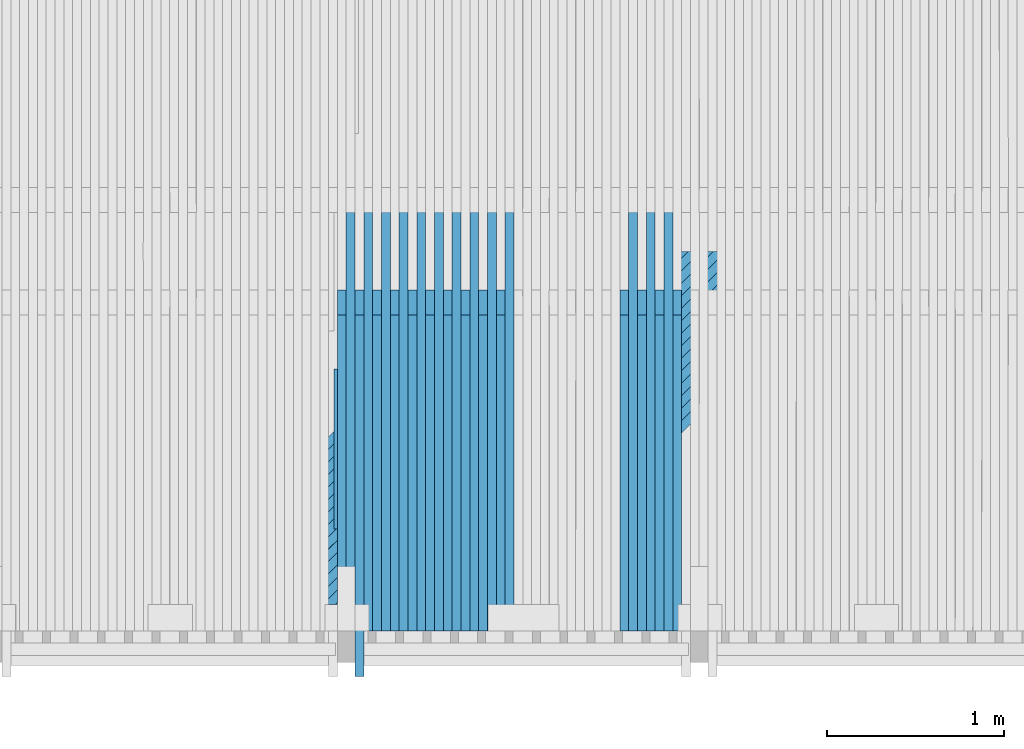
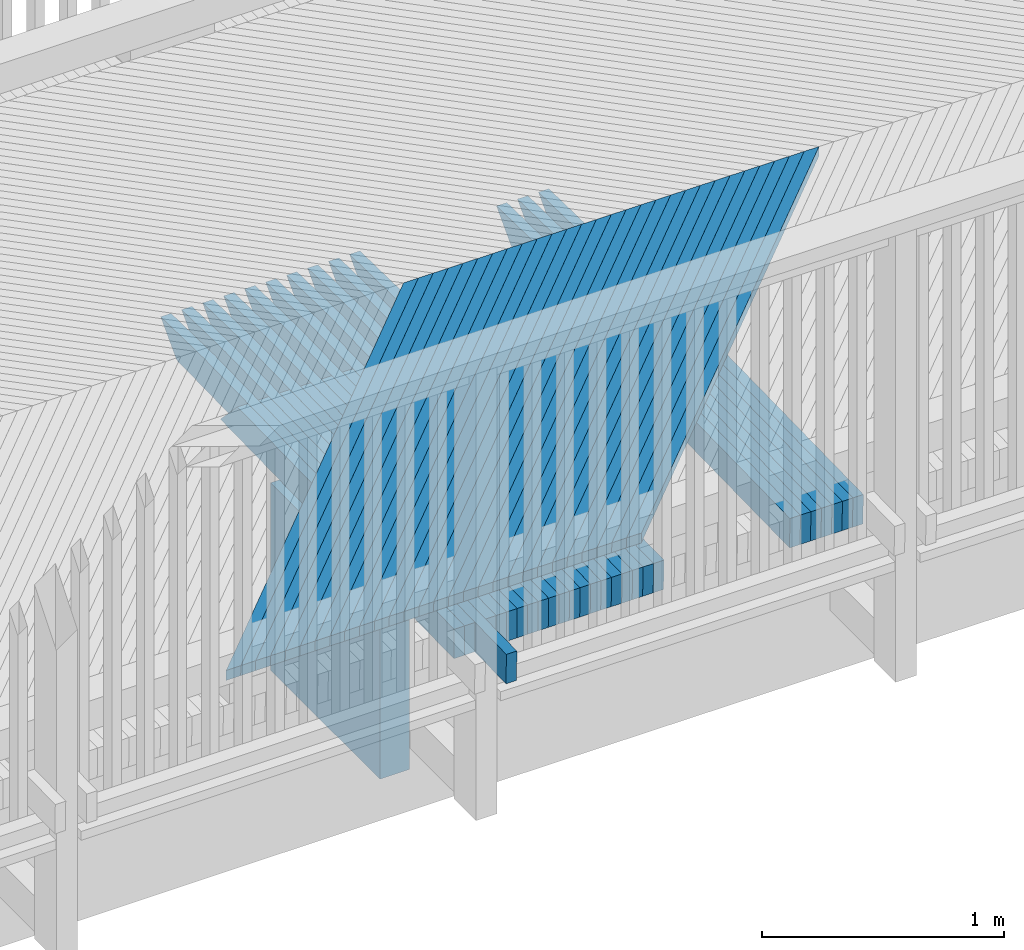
# One storey, part 29 of 52: 56 beams.
"""IFC2X3 building model written with IfcOpenShell, lengths in millimetres."""

from ifc_helpers import new_model, si_unit, frame, origin_with_axes, place, context, subcontext, project, spatial, faceted_brep, material, type_object, element, save


model = new_model("IFC2X3")

# Units and contexts
model_context = context("Model", 3, precision=1e-05, world=origin_with_axes())
body_context = subcontext(model_context, "Body", "Model", "MODEL_VIEW")
ifc_project = project(units=[si_unit("LENGTHUNIT", "METRE", prefix="MILLI"), si_unit("AREAUNIT", "SQUARE_METRE"), si_unit("VOLUMEUNIT", "CUBIC_METRE"), si_unit("MASSUNIT", "GRAM", prefix="KILO"), si_unit("TIMEUNIT", "SECOND"), si_unit("PLANEANGLEUNIT", "RADIAN"), si_unit("SOLIDANGLEUNIT", "STERADIAN"), si_unit("THERMODYNAMICTEMPERATUREUNIT", "DEGREE_CELSIUS"), si_unit("LUMINOUSINTENSITYUNIT", "LUMEN")], contexts=[model_context])

# Site, building, storey
site_placement = place(None, origin_with_axes())
site = spatial("IfcSite", under=ifc_project, at=site_placement, Name="Undefined", CompositionType="ELEMENT")
building_placement = place(site_placement, origin_with_axes())
building = spatial("IfcBuilding", under=site, at=building_placement, Name="Undefined", CompositionType="ELEMENT")
storey_placement = place(building_placement, origin_with_axes())
storey = spatial("IfcBuildingStorey", under=building, at=storey_placement, Name="Undefined", CompositionType="ELEMENT", Elevation=0.0)

# Beams
ifc_material = material(Name="TIMBER/Timber_Undefined")
beam_type_1 = type_object("IfcBeamType", Name="945*140", PredefinedType="NOTDEFINED")
beam_1_placement = place(storey_placement, frame((8000.0, 1697.5, 2542.6979002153), z_axis=(0.0, 0.0, 1.0), x_axis=(0.0, -1.0, 0.0)))
element("IfcBeam", 1, at=beam_1_placement, inside=storey, type_object=beam_type_1, material=ifc_material, Name="PALKKI", ObjectType="945*140", context=body_context, shape_type="Brep", body=[
    faceted_brep([(0.0, 70.0, -472.5), (0.0, 70.0, 472.5), (905.0, 70.0, 472.5), (905.0, 70.0, -472.5), (0.0, -70.0, 472.5), (905.0, -70.0, 472.5), (0.0, -70.0, -472.5), (905.0, -70.0, -472.5)], [[[0, 1, 2, 3]], [[1, 4, 5, 2]], [[4, 6, 7, 5]], [[6, 0, 3, 7]], [[5, 7, 3, 2]], [[6, 4, 1, 0]]]),
])
beam_type_2 = type_object("IfcBeamType", Name="50*50", PredefinedType="NOTDEFINED")
for number, where, z_axis, x_axis, name in (
    (2, (10894.0405199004, 2364.50010032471, 3229.16691949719), (0.707044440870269, -0.70698194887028, -0.0162690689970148), (-0.707162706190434, -0.706948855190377, -0.0120092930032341), "BEAM"),
    (3, (10823.3170835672, 2364.50010032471, 3229.50270179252), (0.70704634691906, -0.706981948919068, -0.0161860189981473), (-0.707161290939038, -0.706948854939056, -0.0120923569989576), "BEAM"),
    (4, (10752.5936082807, 2364.50010032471, 3229.83017686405), (0.70704824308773, -0.706981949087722, -0.0161029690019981), (-0.707159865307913, -0.706948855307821, -0.0121754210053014), "BEAM"),
    (5, (10681.8700950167, 2364.50010032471, 3230.14934470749), (0.707050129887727, -0.706981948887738, -0.0160199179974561), (-0.707158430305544, -0.706948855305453, -0.0122584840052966), "BEAM"),
    (6, (10611.1465447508, 2364.50010032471, 3230.46020531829), (0.707052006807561, -0.70698194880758, -0.0159368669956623), (-0.707156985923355, -0.706948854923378, -0.0123415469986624), "BEAM"),
    (7, (10540.422958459, 2364.50010032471, 3230.76275869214), (0.707053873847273, -0.706981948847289, -0.0158538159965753), (-0.707155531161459, -0.706948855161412, -0.0124246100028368), "BEAM"),
    (8, (10469.6993371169, 2364.50010032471, 3231.05700482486), (0.707055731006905, -0.706981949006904, -0.0157707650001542), (-0.707154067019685, -0.706948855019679, -0.0125076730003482), "BEAM"),
    (9, (10398.9756817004, 2364.50010032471, 3231.34294371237), (0.707057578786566, -0.706981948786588, -0.0156877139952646), (-0.707152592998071, -0.706948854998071, -0.0125907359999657), "BEAM"),
    (10, (10328.2519931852, 2364.50010032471, 3231.62057535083), (0.707059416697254, -0.706981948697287, -0.0156046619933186), (-0.707151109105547, -0.706948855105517, -0.0126737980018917), "BEAM"),
    (11, (10257.5282725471, 2364.50010032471, 3231.88989973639), (0.707061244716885, -0.706981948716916, -0.0155216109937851), (-0.707149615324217, -0.706948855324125, -0.0127568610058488), "BEAM"),
    (12, (10186.8045207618, 2364.50010032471, 3232.15091686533), (0.707063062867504, -0.70698194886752, -0.0154385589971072), (-0.707148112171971, -0.706948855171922, -0.0128399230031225), "BEAM"),
    (13, (10116.0807388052, 2364.50010032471, 3232.40362673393), (0.707064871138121, -0.706981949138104, -0.0153555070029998), (-0.707146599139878, -0.706948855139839, -0.0129229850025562), "BEAM"),
    (14, (10045.356927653, 2364.50010032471, 3232.64802933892), (0.707066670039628, -0.706981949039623, -0.0152724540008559), (-0.707145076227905, -0.706948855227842, -0.0130060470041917), "BEAM"),
    (15, (9974.63308828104, 2364.50010032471, 3232.8841246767), (0.707068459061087, -0.706981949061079, -0.0151894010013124), (-0.707143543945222, -0.706948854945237, -0.0130891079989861), "BEAM"),
    (16, (9903.90922166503, 2364.50010032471, 3233.11191274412), (0.707070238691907, -0.706981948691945, -0.0151063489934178), (-0.707142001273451, -0.706948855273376, -0.0131721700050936), "BEAM"),
    (17, (9833.18532878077, 2364.50010032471, 3233.33139353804), (0.707072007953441, -0.706981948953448, -0.0150232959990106), (-0.707140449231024, -0.706948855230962, -0.0132552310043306), "BEAM"),
    (18, (9762.46141060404, 2364.50010032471, 3233.54256705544), (0.707073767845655, -0.706981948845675, -0.0149402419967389), (-0.707138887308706, -0.706948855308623, -0.0133382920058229), "BEAM"),
    (19, (9691.73746811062, 2364.50010032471, 3233.7454332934), (0.707075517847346, -0.706981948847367, -0.0148571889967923), (-0.707137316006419, -0.706948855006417, -0.0134213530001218), "BEAM"),
    (20, (9621.01350227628, 2364.50010032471, 3233.93999224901), (0.707077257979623, -0.706981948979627, -0.0147741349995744), (-0.707135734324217, -0.706948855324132, -0.0135044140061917), "BEAM"),
    (21, (9550.28951407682, 2364.50010032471, 3234.12624391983), (0.707078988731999, -0.706981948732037, -0.0146910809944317), (-0.70713414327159, -0.706948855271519, -0.0135874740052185), "BEAM"),
    (22, (9479.565504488, 2364.50010032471, 3234.30418830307), (0.707080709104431, -0.706981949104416, -0.0146080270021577), (-0.70713254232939, -0.706948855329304, -0.0136705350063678), "BEAM"),
    (23, (9408.8414744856, 2364.50010032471, 3234.4738253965), (0.707082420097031, -0.706981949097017, -0.0145249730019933), (-0.707130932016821, -0.706948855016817, -0.0137535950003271), "BEAM"),
    (24, (9338.11742504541, 2364.50010032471, 3234.63515519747), (0.70708412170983, -0.706981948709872, -0.0144419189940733), (-0.707129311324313, -0.70694885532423, -0.0138366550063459), "BEAM"),
    (25, (9267.39335714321, 2364.50010032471, 3234.78817770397), (0.70708581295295, -0.706981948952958, -0.0143588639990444), (-0.707127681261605, -0.706948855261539, -0.0139197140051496), "BEAM"),
    (26, (9196.66927175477, 2364.50010032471, 3234.93289291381), (0.707087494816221, -0.706981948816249, -0.0142758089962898), (-0.707126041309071, -0.706948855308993, -0.0140027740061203), "BEAM"),
    (27, (9125.94516985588, 2364.50010032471, 3235.06930082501), (0.707089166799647, -0.706981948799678, -0.0141927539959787), (-0.707124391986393, -0.706948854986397, -0.0140858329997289), "BEAM"),
    (28, (9055.22105242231, 2364.50010032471, 3235.1974014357), (0.707090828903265, -0.706981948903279, -0.0141096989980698), (-0.707122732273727, -0.70694885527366, -0.0141688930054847), "BEAM"),
    (29, (8984.49692042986, 2364.50010032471, 3235.31719474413), (0.707092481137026, -0.706981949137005, -0.0140266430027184), (-0.707121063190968, -0.706948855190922, -0.014251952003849), "BEAM"),
):
    element("IfcBeam", number, at=place(storey_placement, frame(where, z_axis=z_axis, x_axis=x_axis)), inside=storey, type_object=beam_type_2, material=ifc_material, Name=name, ObjectType="50*50", context=body_context, shape_type="Brep", body=[
        faceted_brep([(24.894245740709, 25.0, -25.0), (-25.0086637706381, 24.9999999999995, 24.9999999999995), (2804.3406783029, 25.0000000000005, 25.0000000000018), (2854.34301907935, 25.0, -24.9999999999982), (-26.4222658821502, -25.0, 24.9999999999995), (2802.92643296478, -25.0, 25.0000000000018), (23.4806436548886, -25.0, -25.0), (2852.92877373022, -25.0, -24.9999999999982)], [[[0, 1, 2, 3]], [[1, 4, 5, 2]], [[4, 6, 7, 5]], [[6, 0, 3, 7]], [[5, 7, 3, 2]], [[6, 4, 1, 0]]]),
    ])
beam_type_3 = type_object("IfcBeamType", Name="150*50", PredefinedType="NOTDEFINED")
for number, where, z_axis, x_axis, name in (
    (30, (9875.54866800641, 216.50460761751, 3090.22816959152), (0.00303469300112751, -0.0199960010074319, 0.999795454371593), (6.06930000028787e-05, 0.999800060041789, 0.0199959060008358), "BEAM"),
    (31, (9775.52909420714, 216.50460761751, 3090.53149263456), (0.00286857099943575, -0.0199960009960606, 0.999795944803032), (5.73710000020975e-05, 0.999800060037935, 0.0199959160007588), "BEAM"),
):
    element("IfcBeam", number, at=place(storey_placement, frame(where, z_axis=z_axis, x_axis=x_axis)), inside=storey, type_object=beam_type_3, material=ifc_material, Name=name, ObjectType="150*50", context=body_context, shape_type="Brep", body=[
        faceted_brep([(-1.67788130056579e-07, -24.9999999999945, -74.9999999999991), (1.67786311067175e-07, -24.9999999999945, 75.0000000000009), (1.67786311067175e-07, 25.0000000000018, 75.0), (-1.67787220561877e-07, 25.0000000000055, -75.0), (1789.96936433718, -25.0000000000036, 74.9999999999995), (1789.96936408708, 24.9999999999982, 75.0000000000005), (1928.42646328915, 24.9999999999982, -74.9999999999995), (1928.42646353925, -25.0, -75.0)], [[[0, 1, 2, 3]], [[2, 1, 4, 5]], [[3, 2, 5, 6]], [[0, 3, 6, 7]], [[1, 0, 7, 4]], [[6, 5, 4, 7]]]),
    ])
beam_2_placement = place(storey_placement, frame((9825.54889674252, 216.504607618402, 3090.37966862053), z_axis=(0.00303469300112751, -0.0199960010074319, 0.999795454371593), x_axis=(6.06930000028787e-05, 0.999800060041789, 0.0199959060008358)))
element("IfcBeam", 32, at=beam_2_placement, inside=storey, type_object=beam_type_3, material=ifc_material, Name="BEAM", ObjectType="150*50", context=body_context, shape_type="Brep", body=[
    faceted_brep([(-1.67788130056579e-07, -24.9999999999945, -74.9999999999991), (1.67786311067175e-07, -24.9999999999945, 75.0000000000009), (1.67786311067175e-07, 25.0000000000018, 75.0), (-1.67787220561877e-07, 25.0000000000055, -75.0), (2375.00494422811, 25.0000000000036, -74.9999999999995), (2375.0049444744, -24.9999999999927, -74.9999999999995), (2510.5924871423, -24.9999999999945, 60.5875430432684), (2150.42514405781, -24.9999999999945, 75.0000000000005), (2150.42515052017, 25.0000000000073, 75.0), (2510.59248715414, 25.0000000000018, 60.5875433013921)], [[[0, 1, 2, 3]], [[0, 3, 4, 5]], [[1, 0, 5, 6, 7]], [[2, 1, 7, 8]], [[4, 3, 2, 8, 9]], [[5, 4, 9, 6]], [[6, 9, 8, 7]]]),
])
beam_3_placement = place(storey_placement, frame((9675.50947138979, 216.50460761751, 3090.81819688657), z_axis=(0.00270244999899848, -0.0199960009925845, 0.999796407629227), x_axis=(5.40480000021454e-05, 0.999800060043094, 0.0199959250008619)))
element("IfcBeam", 33, at=beam_3_placement, inside=storey, type_object=beam_type_3, material=ifc_material, Name="BEAM", ObjectType="150*50", context=body_context, shape_type="Brep", body=[
    faceted_brep([(-1.67788130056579e-07, -24.9999999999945, -74.9999999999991), (1.67786311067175e-07, -24.9999999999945, 75.0000000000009), (1.67786311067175e-07, 25.0000000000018, 75.0), (-1.67787220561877e-07, 25.0000000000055, -75.0), (1789.96936433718, -25.0000000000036, 74.9999999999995), (1789.96936408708, 24.9999999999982, 75.0000000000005), (1928.42646328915, 24.9999999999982, -74.9999999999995), (1928.42646353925, -25.0, -75.0)], [[[0, 1, 2, 3]], [[2, 1, 4, 5]], [[3, 2, 5, 6]], [[0, 3, 6, 7]], [[1, 0, 7, 4]], [[6, 5, 4, 7]]]),
])
beam_4_placement = place(storey_placement, frame((9725.52929846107, 216.504607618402, 3090.67468393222), z_axis=(0.00286857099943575, -0.0199960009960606, 0.999795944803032), x_axis=(5.73710000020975e-05, 0.999800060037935, 0.0199959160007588)))
element("IfcBeam", 34, at=beam_4_placement, inside=storey, type_object=beam_type_3, material=ifc_material, Name="BEAM", ObjectType="150*50", context=body_context, shape_type="Brep", body=[
    faceted_brep([(-1.67788130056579e-07, -24.9999999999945, -74.9999999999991), (1.67786311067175e-07, -24.9999999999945, 75.0000000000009), (1.67786311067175e-07, 25.0000000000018, 75.0), (-1.67787220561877e-07, 25.0000000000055, -75.0), (2375.00494422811, 25.0000000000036, -74.9999999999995), (2375.0049444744, -24.9999999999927, -74.9999999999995), (2510.5924871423, -24.9999999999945, 60.5875430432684), (2150.42514405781, -24.9999999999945, 75.0000000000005), (2150.42515052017, 25.0000000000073, 75.0), (2510.59248715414, 25.0000000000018, 60.5875433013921)], [[[0, 1, 2, 3]], [[0, 3, 4, 5]], [[1, 0, 5, 6, 7]], [[2, 1, 7, 8]], [[4, 3, 2, 8, 9]], [[5, 4, 9, 6]], [[6, 9, 8, 7]]]),
])
beam_5_placement = place(storey_placement, frame((9575.48980231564, 216.50460761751, 3091.08828233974), z_axis=(0.0025363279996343, -0.0199960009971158, 0.999796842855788), x_axis=(5.07260000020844e-05, 0.999800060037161, 0.0199959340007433)))
element("IfcBeam", 35, at=beam_5_placement, inside=storey, type_object=beam_type_3, material=ifc_material, Name="BEAM", ObjectType="150*50", context=body_context, shape_type="Brep", body=[
    faceted_brep([(-1.67788130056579e-07, -24.9999999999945, -74.9999999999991), (1.67786311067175e-07, -24.9999999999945, 75.0000000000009), (1.67786311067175e-07, 25.0000000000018, 75.0), (-1.67787220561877e-07, 25.0000000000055, -75.0), (1789.96936433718, -25.0000000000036, 74.9999999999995), (1789.96936408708, 24.9999999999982, 75.0000000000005), (1928.42646328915, 24.9999999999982, -74.9999999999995), (1928.42646353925, -25.0, -75.0)], [[[0, 1, 2, 3]], [[2, 1, 4, 5]], [[3, 2, 5, 6]], [[0, 3, 6, 7]], [[1, 0, 7, 4]], [[6, 5, 4, 7]]]),
])
beam_6_placement = place(storey_placement, frame((9625.5096525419, 216.504607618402, 3090.9530804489), z_axis=(0.00270244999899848, -0.0199960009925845, 0.999796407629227), x_axis=(5.40480000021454e-05, 0.999800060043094, 0.0199959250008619)))
element("IfcBeam", 36, at=beam_6_placement, inside=storey, type_object=beam_type_3, material=ifc_material, Name="BEAM", ObjectType="150*50", context=body_context, shape_type="Brep", body=[
    faceted_brep([(-1.67788130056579e-07, -24.9999999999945, -74.9999999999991), (1.67786311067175e-07, -24.9999999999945, 75.0000000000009), (1.67786311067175e-07, 25.0000000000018, 75.0), (-1.67787220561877e-07, 25.0000000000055, -75.0), (2375.00494422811, 25.0000000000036, -74.9999999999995), (2375.0049444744, -24.9999999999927, -74.9999999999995), (2510.5924871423, -24.9999999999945, 60.5875430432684), (2150.42514405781, -24.9999999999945, 75.0000000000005), (2150.42515052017, 25.0000000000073, 75.0), (2510.59248715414, 25.0000000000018, 60.5875433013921)], [[[0, 1, 2, 3]], [[0, 3, 4, 5]], [[1, 0, 5, 6, 7]], [[2, 1, 7, 8]], [[4, 3, 2, 8, 9]], [[5, 4, 9, 6]], [[6, 9, 8, 7]]]),
])
beam_7_placement = place(storey_placement, frame((8875.35105555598, 216.50460761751, 3092.51355357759), z_axis=(0.00137347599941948, -0.0199960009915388, 0.999799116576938), x_axis=(2.74690000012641e-05, 0.999800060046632, 0.0199959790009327)))
element("IfcBeam", 37, at=beam_7_placement, inside=storey, type_object=beam_type_3, material=ifc_material, Name="BEAM", ObjectType="150*50", context=body_context, shape_type="Brep", body=[
    faceted_brep([(-1.67788130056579e-07, -24.9999999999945, -74.9999999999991), (1.67786311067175e-07, -24.9999999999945, 75.0000000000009), (1.67786311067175e-07, 25.0000000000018, 75.0), (-1.67787220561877e-07, 25.0000000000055, -75.0), (1928.42646353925, -25.0, -75.0), (1789.96936433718, -25.0000000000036, 74.9999999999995), (1789.96936408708, 24.9999999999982, 75.0000000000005), (1928.42646328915, 24.9999999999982, -74.9999999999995)], [[[0, 1, 2, 3]], [[1, 0, 4, 5]], [[2, 1, 5, 6]], [[3, 2, 6, 7]], [[0, 3, 7, 4]], [[7, 6, 5, 4]]]),
])
beam_8_placement = place(storey_placement, frame((8925.37102920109, 216.504607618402, 3092.43652922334), z_axis=(0.00153959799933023, -0.0199960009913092, 0.999798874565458), x_axis=(3.0791000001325e-05, 0.999800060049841, 0.0199959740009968)))
element("IfcBeam", 38, at=beam_8_placement, inside=storey, type_object=beam_type_3, material=ifc_material, Name="BEAM", ObjectType="150*50", context=body_context, shape_type="Brep", body=[
    faceted_brep([(-1.67788130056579e-07, -24.9999999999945, -74.9999999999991), (1.67786311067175e-07, -24.9999999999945, 75.0000000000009), (1.67786311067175e-07, 25.0000000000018, 75.0), (-1.67787220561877e-07, 25.0000000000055, -75.0), (2375.00494422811, 25.0000000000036, -74.9999999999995), (2375.0049444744, -24.9999999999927, -74.9999999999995), (2510.5924871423, -24.9999999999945, 60.5875430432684), (2150.42520082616, -25.0000000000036, 75.0000000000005), (2150.42515052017, 25.0000000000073, 75.0), (2510.59248715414, 25.0000000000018, 60.5875433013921)], [[[0, 1, 2, 3]], [[0, 3, 4, 5]], [[1, 0, 5, 6, 7]], [[2, 1, 7, 8]], [[4, 3, 2, 8, 9]], [[5, 4, 9, 6]], [[8, 7, 6, 9]]]),
])
beam_9_placement = place(storey_placement, frame((8775.33111583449, 216.50460761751, 3092.65068841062), z_axis=(0.00120735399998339, -0.0199960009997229, 0.999799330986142), x_axis=(2.41470000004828e-05, 0.999800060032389, 0.0199959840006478)))
element("IfcBeam", 39, at=beam_9_placement, inside=storey, type_object=beam_type_3, material=ifc_material, Name="BEAM", ObjectType="150*50", context=body_context, shape_type="Brep", body=[
    faceted_brep([(-1.67788130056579e-07, -24.9999999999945, -74.9999999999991), (1.67786311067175e-07, -24.9999999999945, 75.0000000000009), (1.67786311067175e-07, 25.0000000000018, 75.0), (-1.67787220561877e-07, 25.0000000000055, -75.0), (1928.42646353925, -25.0, -75.0), (1789.96936433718, -25.0000000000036, 74.9999999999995), (1789.96936408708, 24.9999999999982, 75.0000000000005), (1928.42646328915, 24.9999999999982, -74.9999999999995)], [[[0, 1, 2, 3]], [[1, 0, 4, 5]], [[2, 1, 5, 6]], [[3, 2, 6, 7]], [[0, 3, 7, 4]], [[7, 6, 5, 4]]]),
])
beam_10_placement = place(storey_placement, frame((8825.35110158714, 216.504607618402, 3092.5819751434), z_axis=(0.00137347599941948, -0.0199960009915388, 0.999799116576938), x_axis=(2.74690000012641e-05, 0.999800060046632, 0.0199959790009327)))
element("IfcBeam", 40, at=beam_10_placement, inside=storey, type_object=beam_type_3, material=ifc_material, Name="BEAM", ObjectType="150*50", context=body_context, shape_type="Brep", body=[
    faceted_brep([(-1.67788130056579e-07, -24.9999999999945, -74.9999999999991), (1.67786311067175e-07, -24.9999999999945, 75.0000000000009), (1.67786311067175e-07, 25.0000000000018, 75.0), (-1.67787220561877e-07, 25.0000000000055, -75.0), (2375.00494422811, 25.0000000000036, -74.9999999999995), (2375.0049444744, -24.9999999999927, -74.9999999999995), (2510.5924871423, -24.9999999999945, 60.5875430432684), (2150.42514405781, -24.9999999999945, 75.0000000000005), (2150.42515052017, 25.0000000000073, 75.0), (2510.59248715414, 25.0000000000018, 60.5875433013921)], [[[0, 1, 2, 3]], [[0, 3, 4, 5]], [[1, 0, 5, 6, 7]], [[2, 1, 7, 8]], [[4, 3, 2, 8, 9]], [[5, 4, 9, 6]], [[6, 9, 8, 7]]]),
])
beam_11_placement = place(storey_placement, frame((8675.31115470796, 216.50460761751, 3092.77120439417), z_axis=(0.00104123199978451, -0.0199960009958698, 0.99979951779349), x_axis=(2.08240000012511e-05, 0.999800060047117, 0.0199959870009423)))
element("IfcBeam", 41, at=beam_11_placement, inside=storey, type_object=beam_type_3, material=ifc_material, Name="BEAM", ObjectType="150*50", context=body_context, shape_type="Brep", body=[
    faceted_brep([(-1.67788130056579e-07, -24.9999999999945, -74.9999999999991), (1.67786311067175e-07, -24.9999999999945, 75.0000000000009), (1.67786311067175e-07, 25.0000000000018, 75.0), (-1.67787220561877e-07, 25.0000000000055, -75.0), (1928.42646353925, -25.0, -75.0), (1789.96936433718, -25.0000000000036, 74.9999999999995), (1789.96936408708, 24.9999999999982, 75.0000000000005), (1928.42646328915, 24.9999999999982, -74.9999999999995)], [[[0, 1, 2, 3]], [[1, 0, 4, 5]], [[2, 1, 5, 6]], [[3, 2, 6, 7]], [[0, 3, 7, 4]], [[7, 6, 5, 4]]]),
])
beam_12_placement = place(storey_placement, frame((8725.33115118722, 216.504607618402, 3092.71080221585), z_axis=(0.00120735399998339, -0.0199960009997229, 0.999799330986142), x_axis=(2.41470000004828e-05, 0.999800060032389, 0.0199959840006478)))
element("IfcBeam", 42, at=beam_12_placement, inside=storey, type_object=beam_type_3, material=ifc_material, Name="BEAM", ObjectType="150*50", context=body_context, shape_type="Brep", body=[
    faceted_brep([(-1.67788130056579e-07, -24.9999999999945, -74.9999999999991), (1.67786311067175e-07, -24.9999999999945, 75.0000000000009), (1.67786311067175e-07, 25.0000000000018, 75.0), (-1.67787220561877e-07, 25.0000000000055, -75.0), (2375.00494422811, 25.0000000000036, -74.9999999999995), (2375.0049444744, -24.9999999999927, -74.9999999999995), (2510.5924871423, -24.9999999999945, 60.5875430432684), (2150.42520082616, -25.0000000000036, 75.0000000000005), (2150.42515052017, 25.0000000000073, 75.0), (2510.59248715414, 25.0000000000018, 60.5875433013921)], [[[0, 1, 2, 3]], [[0, 3, 4, 5]], [[1, 0, 5, 6, 7]], [[2, 1, 7, 8]], [[4, 3, 2, 8, 9]], [[5, 4, 9, 6]], [[8, 7, 6, 9]]]),
])
beam_13_placement = place(storey_placement, frame((8575.29117493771, 216.50460761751, 3092.8751015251), z_axis=(0.00087510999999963, -0.0199960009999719, 0.999799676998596), x_axis=(1.75020000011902e-05, 0.999800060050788, 0.0199959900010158)))
element("IfcBeam", 43, at=beam_13_placement, inside=storey, type_object=beam_type_3, material=ifc_material, Name="BEAM", ObjectType="150*50", context=body_context, shape_type="Brep", body=[
    faceted_brep([(-1.67788130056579e-07, -24.9999999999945, -74.9999999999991), (1.67786311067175e-07, -24.9999999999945, 75.0000000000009), (1.67786311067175e-07, 25.0000000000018, 75.0), (-1.67787220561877e-07, 25.0000000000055, -75.0), (1928.42646353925, -25.0, -75.0), (1789.96936433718, -25.0000000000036, 74.9999999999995), (1789.96936408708, 24.9999999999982, 75.0000000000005), (1928.42646328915, 24.9999999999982, -74.9999999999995)], [[[0, 1, 2, 3]], [[1, 0, 4, 5]], [[2, 1, 5, 6]], [[3, 2, 6, 7]], [[0, 3, 7, 4]], [[7, 6, 5, 4]]]),
])
beam_14_placement = place(storey_placement, frame((8625.31118076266, 216.504607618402, 3092.82301043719), z_axis=(0.00104123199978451, -0.0199960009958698, 0.99979951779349), x_axis=(2.08240000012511e-05, 0.999800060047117, 0.0199959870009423)))
element("IfcBeam", 44, at=beam_14_placement, inside=storey, type_object=beam_type_3, material=ifc_material, Name="BEAM", ObjectType="150*50", context=body_context, shape_type="Brep", body=[
    faceted_brep([(-1.67788130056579e-07, -24.9999999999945, -74.9999999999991), (1.67786311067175e-07, -24.9999999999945, 75.0000000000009), (1.67786311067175e-07, 25.0000000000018, 75.0), (-1.67787220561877e-07, 25.0000000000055, -75.0), (2375.00494422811, 25.0000000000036, -74.9999999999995), (2375.0049444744, -24.9999999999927, -74.9999999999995), (2510.5924871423, -24.9999999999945, 60.5875430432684), (2150.42514405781, -24.9999999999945, 75.0000000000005), (2150.42515052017, 25.0000000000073, 75.0), (2510.59248715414, 25.0000000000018, 60.5875433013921)], [[[0, 1, 2, 3]], [[0, 3, 4, 5]], [[1, 0, 5, 6, 7]], [[2, 1, 7, 8]], [[4, 3, 2, 8, 9]], [[5, 4, 9, 6]], [[6, 9, 8, 7]]]),
])
beam_15_placement = place(storey_placement, frame((8475.27117928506, 216.50460761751, 3092.96237980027), z_axis=(0.000708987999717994, -0.0199960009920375, 0.999799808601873), x_axis=(1.41790000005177e-05, 0.999800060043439, 0.0199959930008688)))
element("IfcBeam", 45, at=beam_15_placement, inside=storey, type_object=beam_type_3, material=ifc_material, Name="BEAM", ObjectType="150*50", context=body_context, shape_type="Brep", body=[
    faceted_brep([(-1.67788130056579e-07, -24.9999999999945, -74.9999999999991), (1.67786311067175e-07, -24.9999999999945, 75.0000000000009), (1.67786311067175e-07, 25.0000000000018, 75.0), (-1.67787220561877e-07, 25.0000000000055, -75.0), (1928.42646353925, -25.0, -75.0), (1789.96936433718, -25.0000000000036, 74.9999999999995), (1789.96936408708, 24.9999999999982, 75.0000000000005), (1928.42646328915, 24.9999999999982, -74.9999999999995)], [[[0, 1, 2, 3]], [[1, 0, 4, 5]], [[2, 1, 5, 6]], [[3, 2, 6, 7]], [[0, 3, 7, 4]], [[7, 6, 5, 4]]]),
])
beam_16_placement = place(storey_placement, frame((8525.29119307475, 216.504607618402, 3092.91859980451), z_axis=(0.00087510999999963, -0.0199960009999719, 0.999799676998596), x_axis=(1.75020000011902e-05, 0.999800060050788, 0.0199959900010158)))
element("IfcBeam", 46, at=beam_16_placement, inside=storey, type_object=beam_type_3, material=ifc_material, Name="BEAM", ObjectType="150*50", context=body_context, shape_type="Brep", body=[
    faceted_brep([(-1.67788130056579e-07, -24.9999999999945, -74.9999999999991), (1.67786311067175e-07, -24.9999999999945, 75.0000000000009), (1.67786311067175e-07, 25.0000000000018, 75.0), (-1.67787220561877e-07, 25.0000000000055, -75.0), (2375.00494422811, 25.0000000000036, -74.9999999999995), (2375.0049444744, -24.9999999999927, -74.9999999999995), (2510.5924871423, -24.9999999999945, 60.5875430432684), (2150.42520082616, -25.0000000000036, 75.0000000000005), (2150.42515052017, 25.0000000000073, 75.0), (2510.59248715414, 25.0000000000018, 60.5875433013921)], [[[0, 1, 2, 3]], [[0, 3, 4, 5]], [[1, 0, 5, 6, 7]], [[2, 1, 7, 8]], [[4, 3, 2, 8, 9]], [[5, 4, 9, 6]], [[8, 7, 6, 9]]]),
])
beam_17_placement = place(storey_placement, frame((8375.25117051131, 216.50460761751, 3093.03303921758), z_axis=(0.000542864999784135, -0.0199960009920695, 0.999799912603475), x_axis=(1.08570000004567e-05, 0.999800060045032, 0.0199959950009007)))
element("IfcBeam", 47, at=beam_17_placement, inside=storey, type_object=beam_type_3, material=ifc_material, Name="BEAM", ObjectType="150*50", context=body_context, shape_type="Brep", body=[
    faceted_brep([(-1.67788130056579e-07, -24.9999999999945, -74.9999999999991), (1.67786311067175e-07, -24.9999999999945, 75.0000000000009), (1.67786311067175e-07, 25.0000000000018, 75.0), (-1.67787220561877e-07, 25.0000000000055, -75.0), (1928.42646353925, -25.0, -75.0), (1789.96936433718, -25.0000000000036, 74.9999999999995), (1789.96936408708, 24.9999999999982, 75.0000000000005), (1928.42646328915, 24.9999999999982, -74.9999999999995)], [[[0, 1, 2, 3]], [[1, 0, 4, 5]], [[2, 1, 5, 6]], [[3, 2, 6, 7]], [[0, 3, 7, 4]], [[7, 6, 5, 4]]]),
])
beam_18_placement = place(storey_placement, frame((8425.27119088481, 216.504607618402, 3092.99757031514), z_axis=(0.000708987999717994, -0.0199960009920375, 0.999799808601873), x_axis=(1.41790000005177e-05, 0.999800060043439, 0.0199959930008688)))
element("IfcBeam", 48, at=beam_18_placement, inside=storey, type_object=beam_type_3, material=ifc_material, Name="BEAM", ObjectType="150*50", context=body_context, shape_type="Brep", body=[
    faceted_brep([(-1.67788130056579e-07, -24.9999999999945, -74.9999999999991), (1.67786311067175e-07, -24.9999999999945, 75.0000000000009), (1.67786311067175e-07, 25.0000000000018, 75.0), (-1.67787220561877e-07, 25.0000000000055, -75.0), (2375.00494422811, 25.0000000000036, -74.9999999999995), (2375.0049444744, -24.9999999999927, -74.9999999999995), (2510.5924871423, -24.9999999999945, 60.5875430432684), (2150.42514405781, -24.9999999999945, 75.0000000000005), (2150.42515052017, 25.0000000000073, 75.0), (2510.59248715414, 25.0000000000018, 60.5875433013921)], [[[0, 1, 2, 3]], [[0, 3, 4, 5]], [[1, 0, 5, 6, 7]], [[2, 1, 7, 8]], [[4, 3, 2, 8, 9]], [[5, 4, 9, 6]], [[6, 9, 8, 7]]]),
])
beam_19_placement = place(storey_placement, frame((8275.23115137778, 216.50460761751, 3093.08707977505), z_axis=(0.000376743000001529, -0.0199960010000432, 0.999799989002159), x_axis=(7.53400000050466e-06, 0.999800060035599, 0.0199959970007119)))
element("IfcBeam", 49, at=beam_19_placement, inside=storey, type_object=beam_type_3, material=ifc_material, Name="BEAM", ObjectType="150*50", context=body_context, shape_type="Brep", body=[
    faceted_brep([(-1.67788130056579e-07, -24.9999999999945, -74.9999999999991), (1.67786311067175e-07, -24.9999999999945, 75.0000000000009), (1.67786311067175e-07, 25.0000000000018, 75.0), (-1.67787220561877e-07, 25.0000000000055, -75.0), (1928.42646353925, -25.0, -75.0), (1789.96936433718, -25.0000000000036, 74.9999999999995), (1789.96936408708, 24.9999999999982, 75.0000000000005), (1928.42646328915, 24.9999999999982, -74.9999999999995)], [[[0, 1, 2, 3]], [[1, 0, 4, 5]], [[2, 1, 5, 6]], [[3, 2, 6, 7]], [[0, 3, 7, 4]], [[7, 6, 5, 4]]]),
])
beam_20_placement = place(storey_placement, frame((8325.25117695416, 216.504607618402, 3093.05992196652), z_axis=(0.000542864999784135, -0.0199960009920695, 0.999799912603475), x_axis=(1.08570000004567e-05, 0.999800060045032, 0.0199959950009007)))
element("IfcBeam", 50, at=beam_20_placement, inside=storey, type_object=beam_type_3, material=ifc_material, Name="BEAM", ObjectType="150*50", context=body_context, shape_type="Brep", body=[
    faceted_brep([(-1.67788130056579e-07, -24.9999999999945, -74.9999999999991), (1.67786311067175e-07, -24.9999999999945, 75.0000000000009), (1.67786311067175e-07, 25.0000000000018, 75.0), (-1.67787220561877e-07, 25.0000000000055, -75.0), (2375.00494422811, 25.0000000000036, -74.9999999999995), (2375.0049444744, -24.9999999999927, -74.9999999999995), (2510.5924871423, -24.9999999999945, 60.5875430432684), (2150.42514405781, -24.9999999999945, 75.0000000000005), (2150.42515052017, 25.0000000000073, 75.0), (2510.59248715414, 25.0000000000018, 60.5875433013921)], [[[0, 1, 2, 3]], [[0, 3, 4, 5]], [[1, 0, 5, 6, 7]], [[2, 1, 7, 8]], [[4, 3, 2, 8, 9]], [[5, 4, 9, 6]], [[6, 9, 8, 7]]]),
])
beam_21_placement = place(storey_placement, frame((8175.21112464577, 216.50460761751, 3093.12450147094), z_axis=(0.000210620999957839, -0.0199960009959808, 0.999800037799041), x_axis=(4.21200000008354e-06, 0.999800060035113, 0.0199959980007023)))
element("IfcBeam", 51, at=beam_21_placement, inside=storey, type_object=beam_type_3, material=ifc_material, Name="BEAM", ObjectType="150*50", context=body_context, shape_type="Brep", body=[
    faceted_brep([(-1.67788130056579e-07, -24.9999999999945, -74.9999999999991), (1.67786311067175e-07, -24.9999999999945, 75.0000000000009), (1.67786311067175e-07, 25.0000000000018, 75.0), (-1.67787220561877e-07, 25.0000000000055, -75.0), (1928.42646353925, -25.0, -75.0), (1789.96936433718, -25.0000000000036, 74.9999999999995), (1789.96936408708, 24.9999999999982, 75.0000000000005), (1928.42646328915, 24.9999999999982, -74.9999999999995)], [[[0, 1, 2, 3]], [[1, 0, 4, 5]], [[2, 1, 5, 6]], [[3, 2, 6, 7]], [[0, 3, 7, 4]], [[7, 6, 5, 4]]]),
])
for number, where, z_axis, x_axis, name in (
    (52, (8225.23115404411, 216.504607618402, 3093.10565475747), (0.000376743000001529, -0.0199960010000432, 0.999799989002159), (7.53400000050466e-06, 0.999800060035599, 0.0199959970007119), "BEAM"),
    (53, (8125.21112491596, 216.504607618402, 3093.13476868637), (0.000210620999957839, -0.0199960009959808, 0.999800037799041), (4.21200000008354e-06, 0.999800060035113, 0.0199959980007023), "BEAM"),
):
    element("IfcBeam", number, at=place(storey_placement, frame(where, z_axis=z_axis, x_axis=x_axis)), inside=storey, type_object=beam_type_3, material=ifc_material, Name=name, ObjectType="150*50", context=body_context, shape_type="Brep", body=[
        faceted_brep([(-1.67788130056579e-07, -24.9999999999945, -74.9999999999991), (1.67786311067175e-07, -24.9999999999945, 75.0000000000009), (1.67786311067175e-07, 25.0000000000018, 75.0), (-1.67787220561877e-07, 25.0000000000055, -75.0), (2375.00494422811, 25.0000000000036, -74.9999999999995), (2375.0049444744, -24.9999999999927, -74.9999999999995), (2510.5924871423, -24.9999999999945, 60.5875430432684), (2150.42514405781, -24.9999999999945, 75.0000000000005), (2150.42515052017, 25.0000000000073, 75.0), (2510.59248715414, 25.0000000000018, 60.5875433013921)], [[[0, 1, 2, 3]], [[0, 3, 4, 5]], [[1, 0, 5, 6, 7]], [[2, 1, 7, 8]], [[4, 3, 2, 8, 9]], [[5, 4, 9, 6]], [[6, 9, 8, 7]]]),
    ])
beam_22_placement = place(storey_placement, frame((7975.1710594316, 216.50460761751, 3093.14948827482), z_axis=(-0.000121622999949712, -0.0199960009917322, 0.999800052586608), x_axis=(-2.43299999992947e-06, 0.999800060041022, 0.0199959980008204)))
element("IfcBeam", 54, at=beam_22_placement, inside=storey, type_object=beam_type_3, material=ifc_material, Name="BEAM", ObjectType="150*50", context=body_context, shape_type="Brep", body=[
    faceted_brep([(-1.67788130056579e-07, -24.9999999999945, -74.9999999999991), (1.67786311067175e-07, -24.9999999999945, 75.0000000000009), (1.67786311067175e-07, 25.0000000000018, 75.0), (-1.67787220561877e-07, 25.0000000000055, -75.0), (1928.42646353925, -25.0, -75.0), (1789.96936433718, -25.0000000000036, 74.9999999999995), (1789.96936408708, 24.9999999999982, 75.0000000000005), (1928.42646328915, 24.9999999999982, -74.9999999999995)], [[[0, 1, 2, 3]], [[1, 0, 4, 5]], [[2, 1, 5, 6]], [[3, 2, 6, 7]], [[0, 3, 7, 4]], [[7, 6, 5, 4]]]),
])
beam_23_placement = place(storey_placement, frame((8025.19109233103, 216.504607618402, 3093.14726375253), z_axis=(4.44979999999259e-05, -0.0199960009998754, 0.999800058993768), x_axis=(8.90000000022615e-07, 0.999800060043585, 0.0199959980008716)))
element("IfcBeam", 55, at=beam_23_placement, inside=storey, type_object=beam_type_3, material=ifc_material, Name="BEAM", ObjectType="150*50", context=body_context, shape_type="Brep", body=[
    faceted_brep([(-1.67788130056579e-07, -24.9999999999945, -74.9999999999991), (1.67786311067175e-07, -24.9999999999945, 75.0000000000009), (1.67786311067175e-07, 25.0000000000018, 75.0), (-1.67787220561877e-07, 25.0000000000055, -75.0), (2375.00494422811, 25.0000000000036, -74.9999999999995), (2375.0049444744, -24.9999999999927, -74.9999999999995), (2510.5924871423, -24.9999999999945, 60.5875430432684), (2150.42514405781, -24.9999999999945, 75.0000000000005), (2150.42515052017, 25.0000000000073, 75.0), (2510.59248715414, 25.0000000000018, 60.5875433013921)], [[[0, 1, 2, 3]], [[0, 3, 4, 5]], [[1, 0, 5, 6, 7]], [[2, 1, 7, 8]], [[4, 3, 2, 8, 9]], [[5, 4, 9, 6]], [[6, 9, 8, 7]]]),
])
beam_24_placement = place(storey_placement, frame((8075.17147020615, -41.4438078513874, 3087.9854593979), z_axis=(4.44979999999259e-05, -0.0199960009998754, 0.999800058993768), x_axis=(8.90000000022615e-07, 0.999800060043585, 0.0199959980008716)))
element("IfcBeam", 56, at=beam_24_placement, inside=storey, type_object=beam_type_3, material=ifc_material, Name="BEAM", ObjectType="150*50", context=body_context, shape_type="Brep", body=[
    faceted_brep([(-1.67788130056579e-07, -24.9999999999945, -74.9999999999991), (1.67786311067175e-07, -24.9999999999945, 75.0000000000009), (1.67786311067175e-07, 25.0000000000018, 75.0), (-1.67787220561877e-07, 25.0000000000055, -75.0), (2186.42645144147, -25.0, -75.0), (2047.96935255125, -25.0, 75.0), (2047.9693678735, 25.0, 75.0), (2186.42646676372, 24.9999999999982, -75.0)], [[[0, 1, 2, 3]], [[1, 0, 4, 5]], [[2, 1, 5, 6]], [[3, 2, 6, 7]], [[0, 3, 7, 4]], [[7, 6, 5, 4]]]),
])

save(model, "model.ifc")
